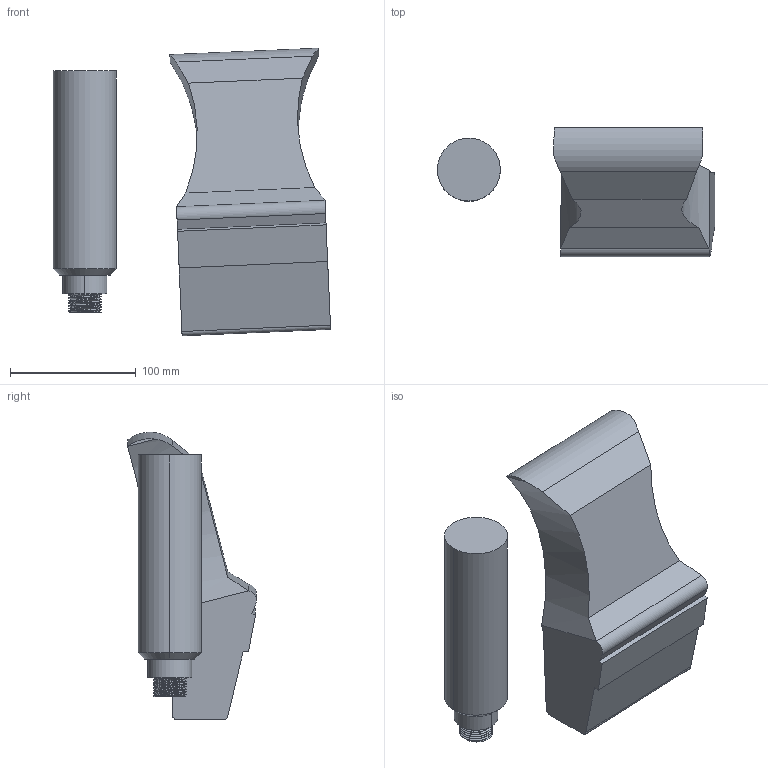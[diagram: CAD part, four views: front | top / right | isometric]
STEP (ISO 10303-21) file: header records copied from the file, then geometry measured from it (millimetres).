
FILE_DESCRIPTION((''),'2;1');
FILE_NAME('ASM0007_ASM','2026-01-26T09:15:06',('28740194'),(''),'CREO PARAMETRIC BY PTC INC, 2024063','CREO PARAMETRIC BY PTC INC, 2024063','');
FILE_SCHEMA(('CONFIG_CONTROL_DESIGN'));
Length unit declared in the file: millimetre
Products named in the file (5): ZSSS; 222000; KWS-990P-2_ASM; KWS-990-1; ASM0007_ASM
Assembly tree (4 placements, depth 3):
  ASM0007_ASM
    KWS-990P-2_ASM
      ZSSS
      222000
    KWS-990-1
Bounding box: 220.08 x 102.31 x 228.35 mm (x, y, z)
Volume: 1548551.3 mm3; surface area: 118346.2 mm2
Topology: 3 solids, 3 shells, 488 faces, 1370 edges, 910 vertices
Faces by surface type: plane 453, cylinder 24, bspline 9, cone 2
Entity records: 18028 total; most frequent: CARTESIAN_POINT 5401, ORIENTED_EDGE 2740, DIRECTION 2322, EDGE_CURVE 1370, VECTOR 1294, LINE 1294, VERTEX_POINT 910, AXIS2_PLACEMENT_3D 514
